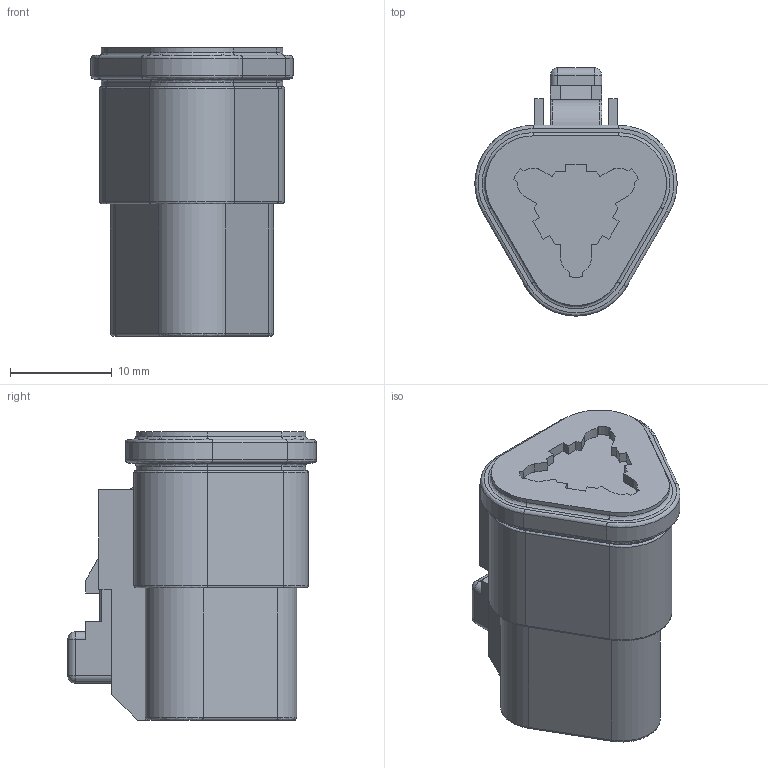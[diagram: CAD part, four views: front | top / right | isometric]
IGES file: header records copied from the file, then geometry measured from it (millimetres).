
Start section:  PTC IGES file: c-dt06-3s-c015-99-3d.igs
Global section: file name: c-dt06-3s-c015-99-3d.igs; native system: Pro/ENGINEER by Parametric Technology Corporation; preprocessor: 2011490; author: workeradm; organization: Unknown; units: millimetre
Bounding box: 19.93 x 24.49 x 28.4 mm (x, y, z)
Surface area: 2666.8 mm2 (no closed solid volume)
Topology: 0 solids, 0 shells, 220 faces, 1098 edges, 1098 vertices
Faces by surface type: bspline 114, revolution 106
